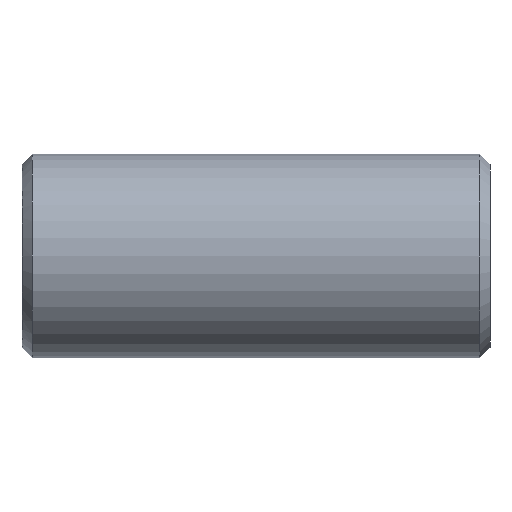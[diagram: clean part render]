
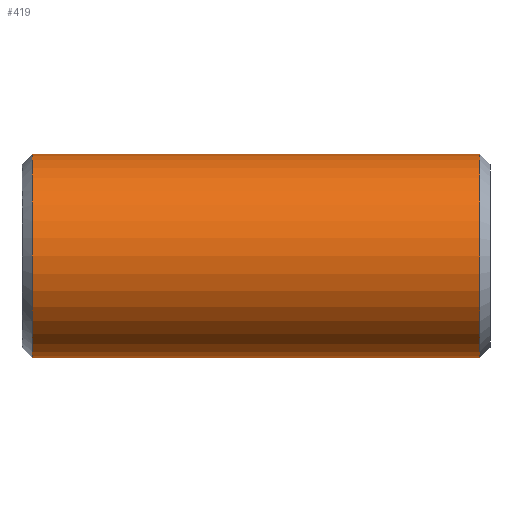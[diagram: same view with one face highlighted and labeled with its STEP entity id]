
A CAD part, front view. The second image highlights one B-rep face of the part: STEP entity #419.
In plain terms, the highlighted cylindrical face has radius 10 mm (diameter 20 mm), a partial arc.
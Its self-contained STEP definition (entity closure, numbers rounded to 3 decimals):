
#231=CARTESIAN_POINT('Vertex',(1.,0.,-10.)) ;
#238=CARTESIAN_POINT('Vertex',(1.,0.,10.)) ;
#267=CARTESIAN_POINT('Axis2P3D Location',(1.,0.,0.)) ;
#271=CARTESIAN_POINT('Vertex',(1.,-10.,0.)) ;
#274=CARTESIAN_POINT('Axis2P3D Location',(1.,0.,0.)) ;
#359=CARTESIAN_POINT('Line Origine',(46.,0.,10.)) ;
#363=CARTESIAN_POINT('Vertex',(45.,0.,10.)) ;
#377=CARTESIAN_POINT('Vertex',(45.,0.,-10.)) ;
#380=CARTESIAN_POINT('Line Origine',(46.,0.,-10.)) ;
#394=CARTESIAN_POINT('Axis2P3D Location',(46.,0.,0.)) ;
#399=CARTESIAN_POINT('Axis2P3D Location',(45.,0.,0.)) ;
#403=CARTESIAN_POINT('Vertex',(45.,-10.,0.)) ;
#406=CARTESIAN_POINT('Axis2P3D Location',(45.,0.,0.)) ;
#268=DIRECTION('Axis2P3D Direction',(1.,0.,-0.)) ;
#275=DIRECTION('Axis2P3D Direction',(1.,0.,-0.)) ;
#360=DIRECTION('Vector Direction',(-1.,0.,0.)) ;
#381=DIRECTION('Vector Direction',(-1.,0.,0.)) ;
#395=DIRECTION('Axis2P3D Direction',(-1.,-0.,-0.)) ;
#396=DIRECTION('Axis2P3D XDirection',(0.,0.,-1.)) ;
#400=DIRECTION('Axis2P3D Direction',(-1.,-0.,-0.)) ;
#407=DIRECTION('Axis2P3D Direction',(-1.,-0.,-0.)) ;
#269=AXIS2_PLACEMENT_3D('Circle Axis2P3D',#267,#268,$) ;
#276=AXIS2_PLACEMENT_3D('Circle Axis2P3D',#274,#275,$) ;
#397=AXIS2_PLACEMENT_3D('Cylinder Axis2P3D',#394,#395,#396) ;
#401=AXIS2_PLACEMENT_3D('Circle Axis2P3D',#399,#400,$) ;
#408=AXIS2_PLACEMENT_3D('Circle Axis2P3D',#406,#407,$) ;
#412=ORIENTED_EDGE('',*,*,#384,.T.) ;
#413=ORIENTED_EDGE('',*,*,#405,.F.) ;
#414=ORIENTED_EDGE('',*,*,#410,.F.) ;
#415=ORIENTED_EDGE('',*,*,#365,.T.) ;
#416=ORIENTED_EDGE('',*,*,#278,.T.) ;
#417=ORIENTED_EDGE('',*,*,#273,.T.) ;
#361=VECTOR('Line Direction',#360,1.) ;
#382=VECTOR('Line Direction',#381,1.) ;
#419=ADVANCED_FACE('352-14X46',(#418),#398,.T.) ;
#270=CIRCLE('generated circle',#269,10.) ;
#277=CIRCLE('generated circle',#276,10.) ;
#402=CIRCLE('generated circle',#401,10.) ;
#409=CIRCLE('generated circle',#408,10.) ;
#398=CYLINDRICAL_SURFACE('generated cylinder',#397,10.) ;
#273=EDGE_CURVE('',#272,#232,#270,.T.) ;
#278=EDGE_CURVE('',#239,#272,#277,.T.) ;
#365=EDGE_CURVE('',#364,#239,#362,.T.) ;
#384=EDGE_CURVE('',#232,#378,#383,.F.) ;
#405=EDGE_CURVE('',#404,#378,#402,.F.) ;
#410=EDGE_CURVE('',#364,#404,#409,.F.) ;
#411=EDGE_LOOP('',(#412,#413,#414,#415,#416,#417)) ;
#418=FACE_OUTER_BOUND('',#411,.T.) ;
#362=LINE('Line',#359,#361) ;
#383=LINE('Line',#380,#382) ;
#232=VERTEX_POINT('',#231) ;
#239=VERTEX_POINT('',#238) ;
#272=VERTEX_POINT('',#271) ;
#364=VERTEX_POINT('',#363) ;
#378=VERTEX_POINT('',#377) ;
#404=VERTEX_POINT('',#403) ;
